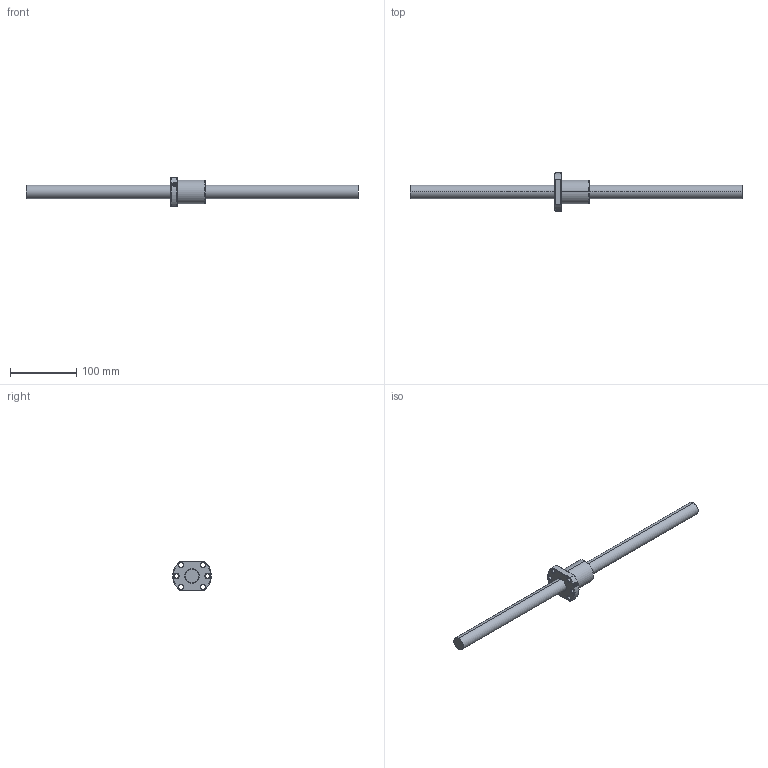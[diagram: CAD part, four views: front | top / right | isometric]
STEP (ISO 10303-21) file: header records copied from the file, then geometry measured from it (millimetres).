
FILE_DESCRIPTION (( 'STEP AP203' ), '1' );
FILE_NAME ('SFB2010-3.8.STEP', '2024-08-13T03:18:02', ( '' ), ( '' ), 'SwSTEP 2.0', 'SolidWorks 2022', '' );
FILE_SCHEMA (( 'CONFIG_CONTROL_DESIGN' ));
Length unit declared in the file: millimetre
Products named in the file (1): SFB2010-3.8
Bounding box: 500 x 58 x 44 mm (x, y, z)
Volume: 200219.2 mm3; surface area: 46720.1 mm2
Topology: 2 solids, 2 shells, 85 faces, 218 edges, 138 vertices
Faces by surface type: cylinder 35, cone 26, plane 12, bspline 6, torus 6
Entity records: 6265 total; most frequent: CARTESIAN_POINT 4186, ORIENTED_EDGE 436, DIRECTION 403, EDGE_CURVE 218, AXIS2_PLACEMENT_3D 164, VERTEX_POINT 138, EDGE_LOOP 102, FACE_OUTER_BOUND 85
